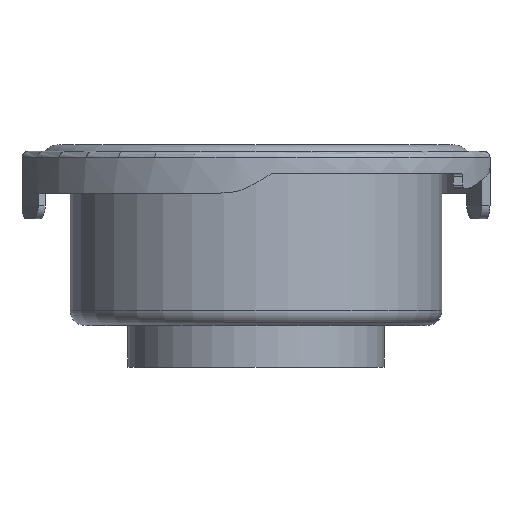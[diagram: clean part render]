
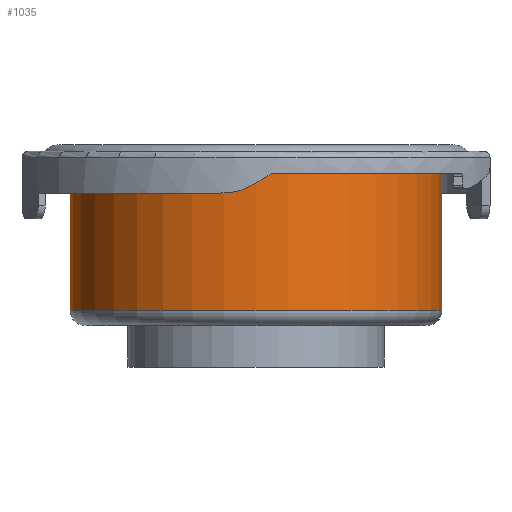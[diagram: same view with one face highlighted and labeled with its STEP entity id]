
A CAD part, left-side view. The second image highlights one B-rep face of the part: STEP entity #1035.
In plain terms, the highlighted cylindrical face has radius 21.584 mm (diameter 43.169 mm), a full revolution.
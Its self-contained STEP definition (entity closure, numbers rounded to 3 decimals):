
#89=CIRCLE('',#1146,21.584);
#90=CIRCLE('',#1148,21.584);
#160=FACE_OUTER_BOUND('',#221,.T.);
#221=EDGE_LOOP('',(#924,#925,#926,#927));
#292=LINE('',#2179,#352);
#352=VECTOR('',#1406,21.584);
#487=VERTEX_POINT('',#2174);
#488=VERTEX_POINT('',#2178);
#634=EDGE_CURVE('',#487,#487,#89,.T.);
#635=EDGE_CURVE('',#487,#488,#292,.T.);
#636=EDGE_CURVE('',#488,#488,#90,.T.);
#924=ORIENTED_EDGE('',*,*,#634,.F.);
#925=ORIENTED_EDGE('',*,*,#635,.T.);
#926=ORIENTED_EDGE('',*,*,#636,.T.);
#927=ORIENTED_EDGE('',*,*,#635,.F.);
#984=CYLINDRICAL_SURFACE('',#1147,21.584);
#1035=ADVANCED_FACE('',(#160),#984,.T.);
#1146=AXIS2_PLACEMENT_3D('',#2176,#1402,#1403);
#1147=AXIS2_PLACEMENT_3D('',#2177,#1404,#1405);
#1148=AXIS2_PLACEMENT_3D('',#2180,#1407,#1408);
#1402=DIRECTION('center_axis',(0.,0.,-1.));
#1403=DIRECTION('ref_axis',(1.,0.,0.));
#1404=DIRECTION('center_axis',(0.,0.,-1.));
#1405=DIRECTION('ref_axis',(-1.,0.,0.));
#1406=DIRECTION('',(0.,0.,1.));
#1407=DIRECTION('center_axis',(0.,0.,-1.));
#1408=DIRECTION('ref_axis',(1.,0.,0.));
#2174=CARTESIAN_POINT('',(42.254,0.,0.836));
#2176=CARTESIAN_POINT('Origin',(20.67,0.,0.836));
#2177=CARTESIAN_POINT('Origin',(20.67,0.,8.448));
#2178=CARTESIAN_POINT('',(42.254,0.,17.81));
#2179=CARTESIAN_POINT('',(42.254,0.,8.448));
#2180=CARTESIAN_POINT('Origin',(20.67,0.,17.81));
